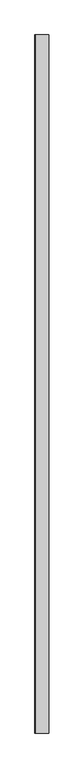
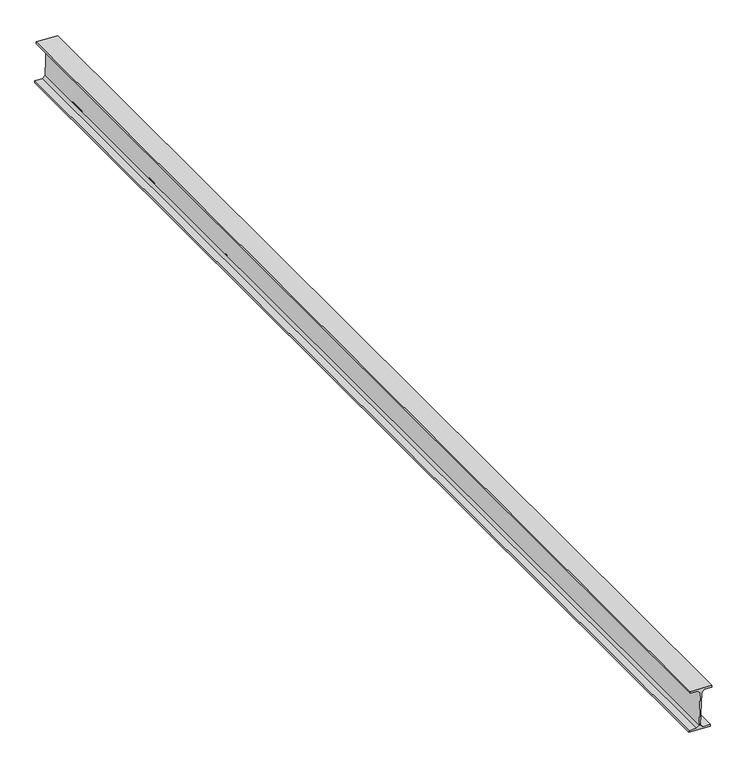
"""IFC4 building model written with IfcOpenShell, lengths in millimetres: beam geometry, Panne 179386 : Panne 179386."""

from ifc_helpers import new_model, si_unit, frame, origin, place, context, project, spatial, polyline, outline, extrude, source, transform, mapped, element, save


def beam_35ba4fe3(model_context):
    return source(origin(), model_context, "Body", "SweptSolid", [
        extrude(outline(polyline([(7765.7760709, 7654.969403), (7769.2739291, 7555.0305968), (7760.7791306, 7554.7332788), (7759.5478845, 7589.9117386), (7747.1354848, 7601.4846524), (7588.2327829, 7595.9230578), (7576.6598691, 7583.5106581), (7577.8911152, 7548.3321983), (7569.3963167, 7548.0348803), (7565.8984585, 7647.9736865), (7574.393257, 7648.2710045), (7575.6245031, 7613.0925447), (7588.0369028, 7601.5196309), (7746.9396047, 7607.0812255), (7758.5125185, 7619.4936252), (7757.2812724, 7654.672085), (7765.7760709, 7654.969403)])), frame((0.0, -34330.0, 0.0), z_axis=(0.0, 1.0, 0.0), x_axis=(0.0, 0.0, 1.0)), (0.0, 0.0, 1.0), 5330.0),
    ])


if __name__ == "__main__":
    model = new_model("IFC4")
    model_context = context("Model", 3, world=origin())
    ifc_project = project(units=[si_unit("LENGTHUNIT", "METRE", prefix="MILLI")], contexts=[model_context])
    site = spatial("IfcSite", under=ifc_project)
    building = spatial("IfcBuilding", under=site)
    placement = place(None, origin())
    beam_shape = beam_35ba4fe3(model_context)
    element("IfcBeam", 1, ObjectType="Panne 179386 : Panne 179386", at=placement, inside=building, context=model_context, shape_type="MappedRepresentation", body=[
        mapped(beam_shape, transform((0.0, 0.0, 0.0), x_axis=(1.0, 0.0, 0.0), y_axis=(0.0, 1.0, 0.0), z_axis=(0.0, 0.0, 1.0))),
    ])
    save(model, "model.ifc")
